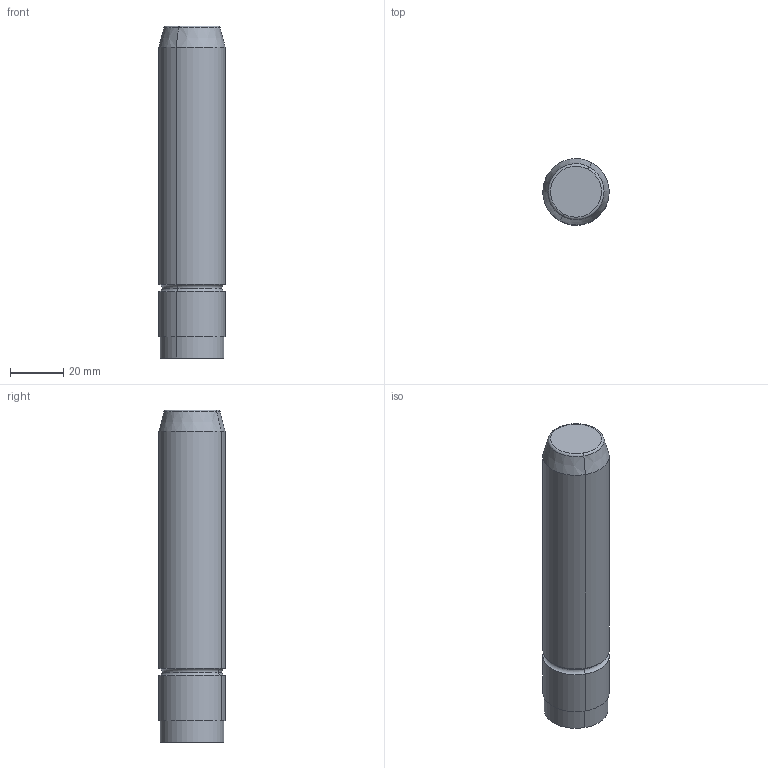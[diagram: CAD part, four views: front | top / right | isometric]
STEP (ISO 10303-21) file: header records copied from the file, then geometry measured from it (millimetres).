
FILE_DESCRIPTION(('CATIA V5 STEP Exchange'),'2;1');
FILE_NAME('C:\Users\Utente\Desktop\IO LAVORO\3D X SITO CF\X SITO\M104\M104-25x125.stp','2020-12-26T21:39:08+00:00',('none'),('none'),'CATIA Version 5 Release 20 GA (IN-10)','CATIA V5 STEP AP203','none');
FILE_SCHEMA(('CONFIG_CONTROL_DESIGN'));
Length unit declared in the file: millimetre
Products named in the file (1): M104-25x125
Bounding box: 24.99 x 24.99 x 125 mm (x, y, z)
Volume: 60194.6 mm3; surface area: 10669.7 mm2
Topology: 1 solids, 1 shells, 17 faces, 32 edges, 18 vertices
Faces by surface type: cylinder 6, torus 6, plane 3, cone 2
Entity records: 438 total; most frequent: CARTESIAN_POINT 66, ORIENTED_EDGE 64, DIRECTION 62, AXIS2_PLACEMENT_3D 40, EDGE_CURVE 32, CIRCLE 24, EDGE_LOOP 18, VERTEX_POINT 18
